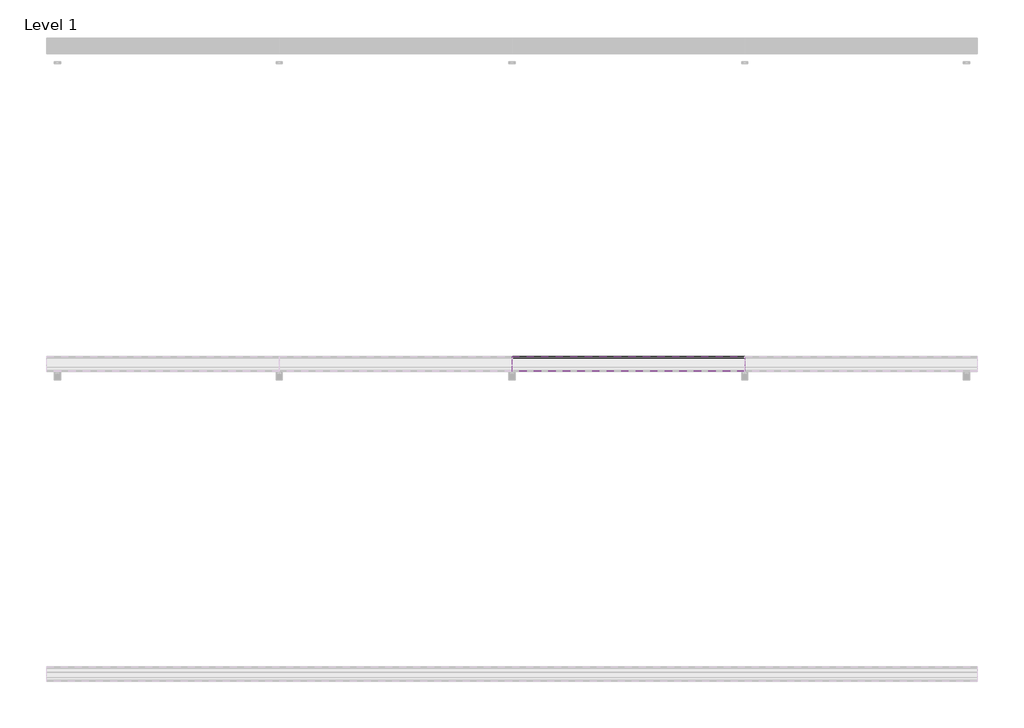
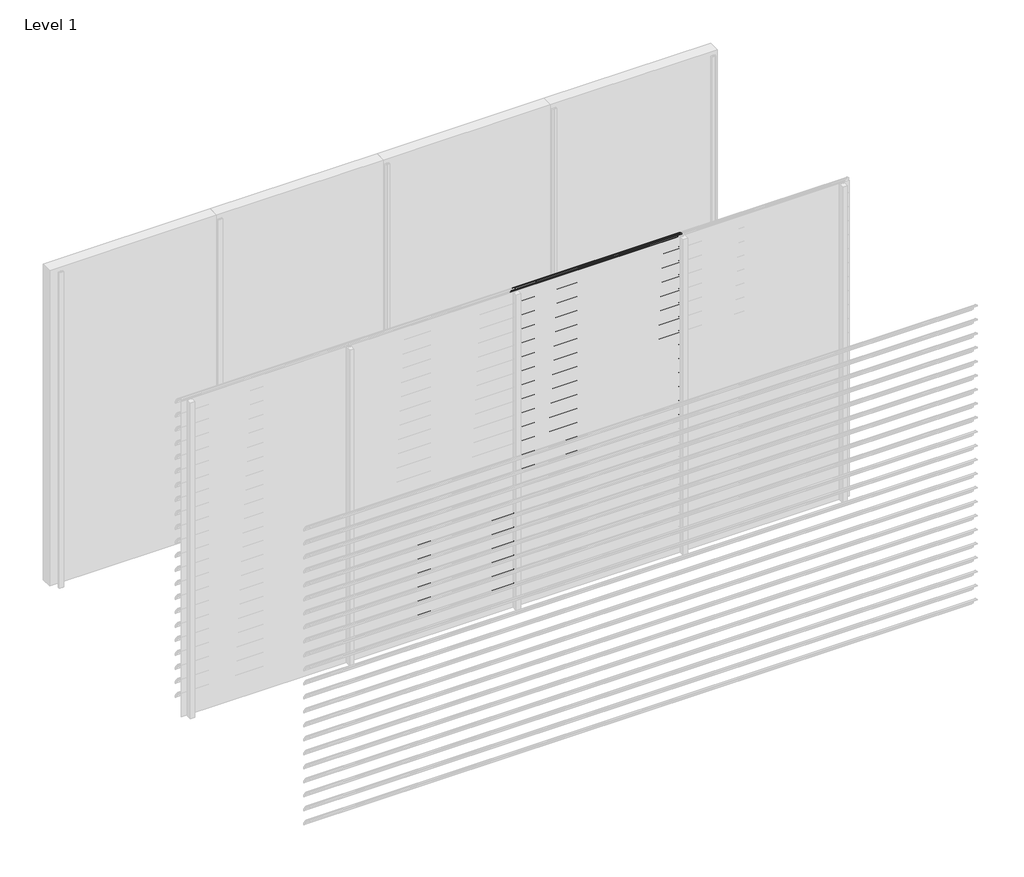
# One storey, part 28 of 57: 20 proxies.
"""IFC4 building model written with IfcOpenShell, lengths in millimetres."""

from ifc_helpers import new_model, si_unit, point, frame, frame_2d, origin, place, context, project, spatial, polyline, circle_curve, trimmed, segment, composite_curve, outline, extrude, element, save

model = new_model("IFC4")

# Units and contexts
model_context = context("Model", 3, world=origin())
ifc_project = project(units=[si_unit("LENGTHUNIT", "METRE", prefix="MILLI")], contexts=[model_context])

# Site, building, storey
site = spatial("IfcSite", under=ifc_project)
building = spatial("IfcBuilding", under=site)
storey = spatial("IfcBuildingStorey", under=building, Name="Level 1", Elevation=0.0)

# Proxies
placement = place(None, origin())
element("IfcBuildingElementProxy", 1, Name="Wall Sweeps", at=placement, inside=storey, context=model_context, shape_type="SweptSolid", body=[
    extrude(outline(composite_curve([segment(trimmed(circle_curve(frame_2d((-29993.7822526, 888.4913792)), 4.2177474), [point((-29989.6985606, 889.5462976))], [point((-29993.7822526, 892.7091266))], False, "CARTESIAN"), True, "CONTINUOUS"), segment(trimmed(circle_curve(frame_2d((-30018.7150834, 790.2536312)), 105.4456002), [point((-29993.7822526, 892.7091266))], [point((-29971.7914298, 884.6832099))], False, "CARTESIAN"), True, "CONTINUOUS"), segment(trimmed(circle_curve(frame_2d((-30061.7199745, 736.0352476)), 173.7335887), [point((-29971.7914298, 884.6832099))], [point((-29913.0720121, 825.9637922))], False, "CARTESIAN"), True, "CONTINUOUS"), segment(trimmed(circle_curve(frame_2d((-30004.9297178, 774.1860314)), 105.4456002), [point((-29913.0720121, 825.9637922))], [point((-29903.6249616, 803.4455765))], False, "CARTESIAN"), True, "CONTINUOUS"), segment(trimmed(circle_curve(frame_2d((-29907.809737, 802.3307305)), 4.3307305), [point((-29903.6249616, 803.4455765))], [point((-29909.0769196, 798.189538))], False, "CARTESIAN"), True, "CONTINUOUS"), segment(polyline([(-29909.0769196, 798.189538), (-29934.7401984, 822.9722783)]), True, "CONTINUOUS"), segment(trimmed(circle_curve(frame_2d((-29931.3879574, 825.2977626)), 4.079877), [point((-29934.7401984, 822.9722783))], [point((-29930.7310597, 829.3244091))], False, "CARTESIAN"), True, "CONTINUOUS"), segment(trimmed(circle_curve(frame_2d((-30014.6665585, 807.2544323)), 86.7885467), [point((-29930.7310597, 829.3244091))], [point((-29942.3028351, 855.1683485))], True, "CARTESIAN"), True, "CONTINUOUS"), segment(polyline([(-29942.3028351, 855.1683485), (-29940.7230099, 857.9046861)]), True, "CONTINUOUS"), segment(trimmed(circle_curve(frame_2d((-30061.7199745, 736.0352476)), 171.7335887), [point((-29940.7230099, 857.9046861))], [point((-29972.7555872, 882.9289618))], True, "CARTESIAN"), True, "CONTINUOUS"), segment(trimmed(circle_curve(frame_2d((-30018.7150834, 790.2536312)), 103.4456002), [point((-29972.7555872, 882.9289618))], [point((-29989.6985606, 889.5462976))], True, "CARTESIAN"), True, "CONTINUOUS")], self_intersect=False)), frame((1500.0, 0.0, 0.0), z_axis=(1.0, 0.0, 0.0), x_axis=(0.0, 1.0, 0.0)), (0.0, 0.0, 1.0), 1500.0),
])
element("IfcBuildingElementProxy", 2, Name="Wall Sweeps", at=placement, inside=storey, context=model_context, shape_type="SweptSolid", body=[
    extrude(outline(composite_curve([segment(trimmed(circle_curve(frame_2d((-29993.7822526, 755.4913792)), 4.2177474), [point((-29989.6985606, 756.5462976))], [point((-29993.7822526, 759.7091266))], False, "CARTESIAN"), True, "CONTINUOUS"), segment(trimmed(circle_curve(frame_2d((-30018.7150834, 657.2536312)), 105.4456002), [point((-29993.7822526, 759.7091266))], [point((-29971.7914298, 751.6832099))], False, "CARTESIAN"), True, "CONTINUOUS"), segment(trimmed(circle_curve(frame_2d((-30061.7199745, 603.0352476)), 173.7335887), [point((-29971.7914298, 751.6832099))], [point((-29913.0720121, 692.9637922))], False, "CARTESIAN"), True, "CONTINUOUS"), segment(trimmed(circle_curve(frame_2d((-30004.9297178, 641.1860314)), 105.4456002), [point((-29913.0720121, 692.9637922))], [point((-29903.6249616, 670.4455765))], False, "CARTESIAN"), True, "CONTINUOUS"), segment(trimmed(circle_curve(frame_2d((-29907.809737, 669.3307305)), 4.3307305), [point((-29903.6249616, 670.4455765))], [point((-29909.0769196, 665.189538))], False, "CARTESIAN"), True, "CONTINUOUS"), segment(polyline([(-29909.0769196, 665.189538), (-29934.7401984, 689.9722783)]), True, "CONTINUOUS"), segment(trimmed(circle_curve(frame_2d((-29931.3879574, 692.2977626)), 4.079877), [point((-29934.7401984, 689.9722783))], [point((-29930.7310597, 696.3244091))], False, "CARTESIAN"), True, "CONTINUOUS"), segment(trimmed(circle_curve(frame_2d((-30014.6665585, 674.2544323)), 86.7885467), [point((-29930.7310597, 696.3244091))], [point((-29942.3028351, 722.1683485))], True, "CARTESIAN"), True, "CONTINUOUS"), segment(polyline([(-29942.3028351, 722.1683485), (-29940.7230099, 724.9046861)]), True, "CONTINUOUS"), segment(trimmed(circle_curve(frame_2d((-30061.7199745, 603.0352476)), 171.7335887), [point((-29940.7230099, 724.9046861))], [point((-29972.7555872, 749.9289618))], True, "CARTESIAN"), True, "CONTINUOUS"), segment(trimmed(circle_curve(frame_2d((-30018.7150834, 657.2536312)), 103.4456002), [point((-29972.7555872, 749.9289618))], [point((-29989.6985606, 756.5462976))], True, "CARTESIAN"), True, "CONTINUOUS")], self_intersect=False)), frame((1500.0, 0.0, 0.0), z_axis=(1.0, 0.0, 0.0), x_axis=(0.0, 1.0, 0.0)), (0.0, 0.0, 1.0), 1500.0),
])
element("IfcBuildingElementProxy", 3, Name="Wall Sweeps", at=placement, inside=storey, context=model_context, shape_type="SweptSolid", body=[
    extrude(outline(composite_curve([segment(trimmed(circle_curve(frame_2d((-29993.7822526, 622.4913792)), 4.2177474), [point((-29989.6985606, 623.5462976))], [point((-29993.7822526, 626.7091266))], False, "CARTESIAN"), True, "CONTINUOUS"), segment(trimmed(circle_curve(frame_2d((-30018.7150834, 524.2536312)), 105.4456002), [point((-29993.7822526, 626.7091266))], [point((-29971.7914298, 618.6832099))], False, "CARTESIAN"), True, "CONTINUOUS"), segment(trimmed(circle_curve(frame_2d((-30061.7199745, 470.0352476)), 173.7335887), [point((-29971.7914298, 618.6832099))], [point((-29913.0720121, 559.9637922))], False, "CARTESIAN"), True, "CONTINUOUS"), segment(trimmed(circle_curve(frame_2d((-30004.9297178, 508.1860314)), 105.4456002), [point((-29913.0720121, 559.9637922))], [point((-29903.6249616, 537.4455765))], False, "CARTESIAN"), True, "CONTINUOUS"), segment(trimmed(circle_curve(frame_2d((-29907.809737, 536.3307305)), 4.3307305), [point((-29903.6249616, 537.4455765))], [point((-29909.0769196, 532.189538))], False, "CARTESIAN"), True, "CONTINUOUS"), segment(polyline([(-29909.0769196, 532.189538), (-29934.7401984, 556.9722783)]), True, "CONTINUOUS"), segment(trimmed(circle_curve(frame_2d((-29931.3879574, 559.2977626)), 4.079877), [point((-29934.7401984, 556.9722783))], [point((-29930.7310597, 563.3244091))], False, "CARTESIAN"), True, "CONTINUOUS"), segment(trimmed(circle_curve(frame_2d((-30014.6665585, 541.2544323)), 86.7885467), [point((-29930.7310597, 563.3244091))], [point((-29942.3028351, 589.1683485))], True, "CARTESIAN"), True, "CONTINUOUS"), segment(polyline([(-29942.3028351, 589.1683485), (-29940.7230099, 591.9046861)]), True, "CONTINUOUS"), segment(trimmed(circle_curve(frame_2d((-30061.7199745, 470.0352476)), 171.7335887), [point((-29940.7230099, 591.9046861))], [point((-29972.7555872, 616.9289618))], True, "CARTESIAN"), True, "CONTINUOUS"), segment(trimmed(circle_curve(frame_2d((-30018.7150834, 524.2536312)), 103.4456002), [point((-29972.7555872, 616.9289618))], [point((-29989.6985606, 623.5462976))], True, "CARTESIAN"), True, "CONTINUOUS")], self_intersect=False)), frame((1500.0, 0.0, 0.0), z_axis=(1.0, 0.0, 0.0), x_axis=(0.0, 1.0, 0.0)), (0.0, 0.0, 1.0), 1500.0),
])
element("IfcBuildingElementProxy", 4, Name="Wall Sweeps", at=placement, inside=storey, context=model_context, shape_type="SweptSolid", body=[
    extrude(outline(composite_curve([segment(trimmed(circle_curve(frame_2d((-29993.7822526, 489.4913792)), 4.2177474), [point((-29989.6985606, 490.5462976))], [point((-29993.7822526, 493.7091266))], False, "CARTESIAN"), True, "CONTINUOUS"), segment(trimmed(circle_curve(frame_2d((-30018.7150834, 391.2536312)), 105.4456002), [point((-29993.7822526, 493.7091266))], [point((-29971.7914298, 485.6832099))], False, "CARTESIAN"), True, "CONTINUOUS"), segment(trimmed(circle_curve(frame_2d((-30061.7199745, 337.0352476)), 173.7335887), [point((-29971.7914298, 485.6832099))], [point((-29913.0720121, 426.9637922))], False, "CARTESIAN"), True, "CONTINUOUS"), segment(trimmed(circle_curve(frame_2d((-30004.9297178, 375.1860314)), 105.4456002), [point((-29913.0720121, 426.9637922))], [point((-29903.6249616, 404.4455765))], False, "CARTESIAN"), True, "CONTINUOUS"), segment(trimmed(circle_curve(frame_2d((-29907.809737, 403.3307305)), 4.3307305), [point((-29903.6249616, 404.4455765))], [point((-29909.0769196, 399.189538))], False, "CARTESIAN"), True, "CONTINUOUS"), segment(polyline([(-29909.0769196, 399.189538), (-29934.7401984, 423.9722783)]), True, "CONTINUOUS"), segment(trimmed(circle_curve(frame_2d((-29931.3879574, 426.2977626)), 4.079877), [point((-29934.7401984, 423.9722783))], [point((-29930.7310597, 430.3244091))], False, "CARTESIAN"), True, "CONTINUOUS"), segment(trimmed(circle_curve(frame_2d((-30014.6665585, 408.2544323)), 86.7885467), [point((-29930.7310597, 430.3244091))], [point((-29942.3028351, 456.1683485))], True, "CARTESIAN"), True, "CONTINUOUS"), segment(polyline([(-29942.3028351, 456.1683485), (-29940.7230099, 458.9046861)]), True, "CONTINUOUS"), segment(trimmed(circle_curve(frame_2d((-30061.7199745, 337.0352476)), 171.7335887), [point((-29940.7230099, 458.9046861))], [point((-29972.7555872, 483.9289618))], True, "CARTESIAN"), True, "CONTINUOUS"), segment(trimmed(circle_curve(frame_2d((-30018.7150834, 391.2536312)), 103.4456002), [point((-29972.7555872, 483.9289618))], [point((-29989.6985606, 490.5462976))], True, "CARTESIAN"), True, "CONTINUOUS")], self_intersect=False)), frame((1500.0, 0.0, 0.0), z_axis=(1.0, 0.0, 0.0), x_axis=(0.0, 1.0, 0.0)), (0.0, 0.0, 1.0), 1500.0),
])
element("IfcBuildingElementProxy", 5, Name="Wall Sweeps", at=placement, inside=storey, context=model_context, shape_type="SweptSolid", body=[
    extrude(outline(composite_curve([segment(trimmed(circle_curve(frame_2d((-29993.7822526, 356.4913792)), 4.2177474), [point((-29989.6985606, 357.5462976))], [point((-29993.7822526, 360.7091266))], False, "CARTESIAN"), True, "CONTINUOUS"), segment(trimmed(circle_curve(frame_2d((-30018.7150834, 258.2536312)), 105.4456002), [point((-29993.7822526, 360.7091266))], [point((-29971.7914298, 352.6832099))], False, "CARTESIAN"), True, "CONTINUOUS"), segment(trimmed(circle_curve(frame_2d((-30061.7199745, 204.0352476)), 173.7335887), [point((-29971.7914298, 352.6832099))], [point((-29913.0720121, 293.9637922))], False, "CARTESIAN"), True, "CONTINUOUS"), segment(trimmed(circle_curve(frame_2d((-30004.9297178, 242.1860314)), 105.4456002), [point((-29913.0720121, 293.9637922))], [point((-29903.6249616, 271.4455765))], False, "CARTESIAN"), True, "CONTINUOUS"), segment(trimmed(circle_curve(frame_2d((-29907.809737, 270.3307305)), 4.3307305), [point((-29903.6249616, 271.4455765))], [point((-29909.0769196, 266.189538))], False, "CARTESIAN"), True, "CONTINUOUS"), segment(polyline([(-29909.0769196, 266.189538), (-29934.7401984, 290.9722783)]), True, "CONTINUOUS"), segment(trimmed(circle_curve(frame_2d((-29931.3879574, 293.2977626)), 4.079877), [point((-29934.7401984, 290.9722783))], [point((-29930.7310597, 297.3244091))], False, "CARTESIAN"), True, "CONTINUOUS"), segment(trimmed(circle_curve(frame_2d((-30014.6665585, 275.2544323)), 86.7885467), [point((-29930.7310597, 297.3244091))], [point((-29942.3028351, 323.1683485))], True, "CARTESIAN"), True, "CONTINUOUS"), segment(polyline([(-29942.3028351, 323.1683485), (-29940.7230099, 325.9046861)]), True, "CONTINUOUS"), segment(trimmed(circle_curve(frame_2d((-30061.7199745, 204.0352476)), 171.7335887), [point((-29940.7230099, 325.9046861))], [point((-29972.7555872, 350.9289618))], True, "CARTESIAN"), True, "CONTINUOUS"), segment(trimmed(circle_curve(frame_2d((-30018.7150834, 258.2536312)), 103.4456002), [point((-29972.7555872, 350.9289618))], [point((-29989.6985606, 357.5462976))], True, "CARTESIAN"), True, "CONTINUOUS")], self_intersect=False)), frame((1500.0, 0.0, 0.0), z_axis=(1.0, 0.0, 0.0), x_axis=(0.0, 1.0, 0.0)), (0.0, 0.0, 1.0), 1500.0),
])
element("IfcBuildingElementProxy", 6, Name="Wall Sweeps", at=placement, inside=storey, context=model_context, shape_type="SweptSolid", body=[
    extrude(outline(composite_curve([segment(trimmed(circle_curve(frame_2d((-29993.7822526, 223.4913792)), 4.2177474), [point((-29989.6985606, 224.5462976))], [point((-29993.7822526, 227.7091266))], False, "CARTESIAN"), True, "CONTINUOUS"), segment(trimmed(circle_curve(frame_2d((-30018.7150834, 125.2536312)), 105.4456002), [point((-29993.7822526, 227.7091266))], [point((-29971.7914298, 219.6832099))], False, "CARTESIAN"), True, "CONTINUOUS"), segment(trimmed(circle_curve(frame_2d((-30061.7199745, 71.0352476)), 173.7335887), [point((-29971.7914298, 219.6832099))], [point((-29913.0720121, 160.9637922))], False, "CARTESIAN"), True, "CONTINUOUS"), segment(trimmed(circle_curve(frame_2d((-30004.9297178, 109.1860314)), 105.4456002), [point((-29913.0720121, 160.9637922))], [point((-29903.6249616, 138.4455765))], False, "CARTESIAN"), True, "CONTINUOUS"), segment(trimmed(circle_curve(frame_2d((-29907.809737, 137.3307305)), 4.3307305), [point((-29903.6249616, 138.4455765))], [point((-29909.0769196, 133.189538))], False, "CARTESIAN"), True, "CONTINUOUS"), segment(polyline([(-29909.0769196, 133.189538), (-29934.7401984, 157.9722783)]), True, "CONTINUOUS"), segment(trimmed(circle_curve(frame_2d((-29931.3879574, 160.2977626)), 4.079877), [point((-29934.7401984, 157.9722783))], [point((-29930.7310597, 164.3244091))], False, "CARTESIAN"), True, "CONTINUOUS"), segment(trimmed(circle_curve(frame_2d((-30014.6665585, 142.2544323)), 86.7885467), [point((-29930.7310597, 164.3244091))], [point((-29942.3028351, 190.1683485))], True, "CARTESIAN"), True, "CONTINUOUS"), segment(polyline([(-29942.3028351, 190.1683485), (-29940.7230099, 192.9046861)]), True, "CONTINUOUS"), segment(trimmed(circle_curve(frame_2d((-30061.7199745, 71.0352476)), 171.7335887), [point((-29940.7230099, 192.9046861))], [point((-29972.7555872, 217.9289618))], True, "CARTESIAN"), True, "CONTINUOUS"), segment(trimmed(circle_curve(frame_2d((-30018.7150834, 125.2536312)), 103.4456002), [point((-29972.7555872, 217.9289618))], [point((-29989.6985606, 224.5462976))], True, "CARTESIAN"), True, "CONTINUOUS")], self_intersect=False)), frame((1500.0, 0.0, 0.0), z_axis=(1.0, 0.0, 0.0), x_axis=(0.0, 1.0, 0.0)), (0.0, 0.0, 1.0), 1500.0),
])
element("IfcBuildingElementProxy", 7, Name="Wall Sweeps", at=placement, inside=storey, context=model_context, shape_type="SweptSolid", body=[
    extrude(outline(composite_curve([segment(trimmed(circle_curve(frame_2d((-29993.7822526, 3016.4913792)), 4.2177474), [point((-29989.6985606, 3017.5462976))], [point((-29993.7822526, 3020.7091266))], False, "CARTESIAN"), True, "CONTINUOUS"), segment(trimmed(circle_curve(frame_2d((-30018.7150834, 2918.2536312)), 105.4456002), [point((-29993.7822526, 3020.7091266))], [point((-29971.7914298, 3012.6832099))], False, "CARTESIAN"), True, "CONTINUOUS"), segment(trimmed(circle_curve(frame_2d((-30061.7199745, 2864.0352476)), 173.7335887), [point((-29971.7914298, 3012.6832099))], [point((-29913.0720121, 2953.9637922))], False, "CARTESIAN"), True, "CONTINUOUS"), segment(trimmed(circle_curve(frame_2d((-30004.9297178, 2902.1860314)), 105.4456002), [point((-29913.0720121, 2953.9637922))], [point((-29903.6249616, 2931.4455765))], False, "CARTESIAN"), True, "CONTINUOUS"), segment(trimmed(circle_curve(frame_2d((-29907.809737, 2930.3307305)), 4.3307305), [point((-29903.6249616, 2931.4455765))], [point((-29909.0769196, 2926.189538))], False, "CARTESIAN"), True, "CONTINUOUS"), segment(polyline([(-29909.0769196, 2926.189538), (-29934.7401984, 2950.9722783)]), True, "CONTINUOUS"), segment(trimmed(circle_curve(frame_2d((-29931.3879574, 2953.2977626)), 4.079877), [point((-29934.7401984, 2950.9722783))], [point((-29930.7310597, 2957.3244091))], False, "CARTESIAN"), True, "CONTINUOUS"), segment(trimmed(circle_curve(frame_2d((-30014.6665585, 2935.2544323)), 86.7885467), [point((-29930.7310597, 2957.3244091))], [point((-29942.3028351, 2983.1683485))], True, "CARTESIAN"), True, "CONTINUOUS"), segment(polyline([(-29942.3028351, 2983.1683485), (-29940.7230099, 2985.9046861)]), True, "CONTINUOUS"), segment(trimmed(circle_curve(frame_2d((-30061.7199745, 2864.0352476)), 171.7335887), [point((-29940.7230099, 2985.9046861))], [point((-29972.7555872, 3010.9289618))], True, "CARTESIAN"), True, "CONTINUOUS"), segment(trimmed(circle_curve(frame_2d((-30018.7150834, 2918.2536312)), 103.4456002), [point((-29972.7555872, 3010.9289618))], [point((-29989.6985606, 3017.5462976))], True, "CARTESIAN"), True, "CONTINUOUS")], self_intersect=False)), frame((3000.0, 0.0, 0.0), z_axis=(1.0, 0.0, 0.0), x_axis=(0.0, 1.0, 0.0)), (0.0, 0.0, 1.0), 1500.0),
])
element("IfcBuildingElementProxy", 8, Name="Wall Sweeps", at=placement, inside=storey, context=model_context, shape_type="SweptSolid", body=[
    extrude(outline(composite_curve([segment(trimmed(circle_curve(frame_2d((-29993.7822526, 2883.4913792)), 4.2177474), [point((-29989.6985606, 2884.5462976))], [point((-29993.7822526, 2887.7091266))], False, "CARTESIAN"), True, "CONTINUOUS"), segment(trimmed(circle_curve(frame_2d((-30018.7150834, 2785.2536312)), 105.4456002), [point((-29993.7822526, 2887.7091266))], [point((-29971.7914298, 2879.6832099))], False, "CARTESIAN"), True, "CONTINUOUS"), segment(trimmed(circle_curve(frame_2d((-30061.7199745, 2731.0352476)), 173.7335887), [point((-29971.7914298, 2879.6832099))], [point((-29913.0720121, 2820.9637922))], False, "CARTESIAN"), True, "CONTINUOUS"), segment(trimmed(circle_curve(frame_2d((-30004.9297178, 2769.1860314)), 105.4456002), [point((-29913.0720121, 2820.9637922))], [point((-29903.6249616, 2798.4455765))], False, "CARTESIAN"), True, "CONTINUOUS"), segment(trimmed(circle_curve(frame_2d((-29907.809737, 2797.3307305)), 4.3307305), [point((-29903.6249616, 2798.4455765))], [point((-29909.0769196, 2793.189538))], False, "CARTESIAN"), True, "CONTINUOUS"), segment(polyline([(-29909.0769196, 2793.189538), (-29934.7401984, 2817.9722783)]), True, "CONTINUOUS"), segment(trimmed(circle_curve(frame_2d((-29931.3879574, 2820.2977626)), 4.079877), [point((-29934.7401984, 2817.9722783))], [point((-29930.7310597, 2824.3244091))], False, "CARTESIAN"), True, "CONTINUOUS"), segment(trimmed(circle_curve(frame_2d((-30014.6665585, 2802.2544323)), 86.7885467), [point((-29930.7310597, 2824.3244091))], [point((-29942.3028351, 2850.1683485))], True, "CARTESIAN"), True, "CONTINUOUS"), segment(polyline([(-29942.3028351, 2850.1683485), (-29940.7230099, 2852.9046861)]), True, "CONTINUOUS"), segment(trimmed(circle_curve(frame_2d((-30061.7199745, 2731.0352476)), 171.7335887), [point((-29940.7230099, 2852.9046861))], [point((-29972.7555872, 2877.9289618))], True, "CARTESIAN"), True, "CONTINUOUS"), segment(trimmed(circle_curve(frame_2d((-30018.7150834, 2785.2536312)), 103.4456002), [point((-29972.7555872, 2877.9289618))], [point((-29989.6985606, 2884.5462976))], True, "CARTESIAN"), True, "CONTINUOUS")], self_intersect=False)), frame((3000.0, 0.0, 0.0), z_axis=(1.0, 0.0, 0.0), x_axis=(0.0, 1.0, 0.0)), (0.0, 0.0, 1.0), 1500.0),
])
element("IfcBuildingElementProxy", 9, Name="Wall Sweeps", at=placement, inside=storey, context=model_context, shape_type="SweptSolid", body=[
    extrude(outline(composite_curve([segment(trimmed(circle_curve(frame_2d((-29993.7822526, 2750.4913792)), 4.2177474), [point((-29989.6985606, 2751.5462976))], [point((-29993.7822526, 2754.7091266))], False, "CARTESIAN"), True, "CONTINUOUS"), segment(trimmed(circle_curve(frame_2d((-30018.7150834, 2652.2536312)), 105.4456002), [point((-29993.7822526, 2754.7091266))], [point((-29971.7914298, 2746.6832099))], False, "CARTESIAN"), True, "CONTINUOUS"), segment(trimmed(circle_curve(frame_2d((-30061.7199745, 2598.0352476)), 173.7335887), [point((-29971.7914298, 2746.6832099))], [point((-29913.0720121, 2687.9637922))], False, "CARTESIAN"), True, "CONTINUOUS"), segment(trimmed(circle_curve(frame_2d((-30004.9297178, 2636.1860314)), 105.4456002), [point((-29913.0720121, 2687.9637922))], [point((-29903.6249616, 2665.4455765))], False, "CARTESIAN"), True, "CONTINUOUS"), segment(trimmed(circle_curve(frame_2d((-29907.809737, 2664.3307305)), 4.3307305), [point((-29903.6249616, 2665.4455765))], [point((-29909.0769196, 2660.189538))], False, "CARTESIAN"), True, "CONTINUOUS"), segment(polyline([(-29909.0769196, 2660.189538), (-29934.7401984, 2684.9722783)]), True, "CONTINUOUS"), segment(trimmed(circle_curve(frame_2d((-29931.3879574, 2687.2977626)), 4.079877), [point((-29934.7401984, 2684.9722783))], [point((-29930.7310597, 2691.3244091))], False, "CARTESIAN"), True, "CONTINUOUS"), segment(trimmed(circle_curve(frame_2d((-30014.6665585, 2669.2544323)), 86.7885467), [point((-29930.7310597, 2691.3244091))], [point((-29942.3028351, 2717.1683485))], True, "CARTESIAN"), True, "CONTINUOUS"), segment(polyline([(-29942.3028351, 2717.1683485), (-29940.7230099, 2719.9046861)]), True, "CONTINUOUS"), segment(trimmed(circle_curve(frame_2d((-30061.7199745, 2598.0352476)), 171.7335887), [point((-29940.7230099, 2719.9046861))], [point((-29972.7555872, 2744.9289618))], True, "CARTESIAN"), True, "CONTINUOUS"), segment(trimmed(circle_curve(frame_2d((-30018.7150834, 2652.2536312)), 103.4456002), [point((-29972.7555872, 2744.9289618))], [point((-29989.6985606, 2751.5462976))], True, "CARTESIAN"), True, "CONTINUOUS")], self_intersect=False)), frame((3000.0, 0.0, 0.0), z_axis=(1.0, 0.0, 0.0), x_axis=(0.0, 1.0, 0.0)), (0.0, 0.0, 1.0), 1500.0),
])
element("IfcBuildingElementProxy", 10, Name="Wall Sweeps", at=placement, inside=storey, context=model_context, shape_type="SweptSolid", body=[
    extrude(outline(composite_curve([segment(trimmed(circle_curve(frame_2d((-29993.7822526, 2617.4913792)), 4.2177474), [point((-29989.6985606, 2618.5462976))], [point((-29993.7822526, 2621.7091266))], False, "CARTESIAN"), True, "CONTINUOUS"), segment(trimmed(circle_curve(frame_2d((-30018.7150834, 2519.2536312)), 105.4456002), [point((-29993.7822526, 2621.7091266))], [point((-29971.7914298, 2613.6832099))], False, "CARTESIAN"), True, "CONTINUOUS"), segment(trimmed(circle_curve(frame_2d((-30061.7199745, 2465.0352476)), 173.7335887), [point((-29971.7914298, 2613.6832099))], [point((-29913.0720121, 2554.9637922))], False, "CARTESIAN"), True, "CONTINUOUS"), segment(trimmed(circle_curve(frame_2d((-30004.9297178, 2503.1860314)), 105.4456002), [point((-29913.0720121, 2554.9637922))], [point((-29903.6249616, 2532.4455765))], False, "CARTESIAN"), True, "CONTINUOUS"), segment(trimmed(circle_curve(frame_2d((-29907.809737, 2531.3307305)), 4.3307305), [point((-29903.6249616, 2532.4455765))], [point((-29909.0769196, 2527.189538))], False, "CARTESIAN"), True, "CONTINUOUS"), segment(polyline([(-29909.0769196, 2527.189538), (-29934.7401984, 2551.9722783)]), True, "CONTINUOUS"), segment(trimmed(circle_curve(frame_2d((-29931.3879574, 2554.2977626)), 4.079877), [point((-29934.7401984, 2551.9722783))], [point((-29930.7310597, 2558.3244091))], False, "CARTESIAN"), True, "CONTINUOUS"), segment(trimmed(circle_curve(frame_2d((-30014.6665585, 2536.2544323)), 86.7885467), [point((-29930.7310597, 2558.3244091))], [point((-29942.3028351, 2584.1683485))], True, "CARTESIAN"), True, "CONTINUOUS"), segment(polyline([(-29942.3028351, 2584.1683485), (-29940.7230099, 2586.9046861)]), True, "CONTINUOUS"), segment(trimmed(circle_curve(frame_2d((-30061.7199745, 2465.0352476)), 171.7335887), [point((-29940.7230099, 2586.9046861))], [point((-29972.7555872, 2611.9289618))], True, "CARTESIAN"), True, "CONTINUOUS"), segment(trimmed(circle_curve(frame_2d((-30018.7150834, 2519.2536312)), 103.4456002), [point((-29972.7555872, 2611.9289618))], [point((-29989.6985606, 2618.5462976))], True, "CARTESIAN"), True, "CONTINUOUS")], self_intersect=False)), frame((3000.0, 0.0, 0.0), z_axis=(1.0, 0.0, 0.0), x_axis=(0.0, 1.0, 0.0)), (0.0, 0.0, 1.0), 1500.0),
])
element("IfcBuildingElementProxy", 11, Name="Wall Sweeps", at=placement, inside=storey, context=model_context, shape_type="SweptSolid", body=[
    extrude(outline(composite_curve([segment(trimmed(circle_curve(frame_2d((-29993.7822526, 2484.4913792)), 4.2177474), [point((-29989.6985606, 2485.5462976))], [point((-29993.7822526, 2488.7091266))], False, "CARTESIAN"), True, "CONTINUOUS"), segment(trimmed(circle_curve(frame_2d((-30018.7150834, 2386.2536312)), 105.4456002), [point((-29993.7822526, 2488.7091266))], [point((-29971.7914298, 2480.6832099))], False, "CARTESIAN"), True, "CONTINUOUS"), segment(trimmed(circle_curve(frame_2d((-30061.7199745, 2332.0352476)), 173.7335887), [point((-29971.7914298, 2480.6832099))], [point((-29913.0720121, 2421.9637922))], False, "CARTESIAN"), True, "CONTINUOUS"), segment(trimmed(circle_curve(frame_2d((-30004.9297178, 2370.1860314)), 105.4456002), [point((-29913.0720121, 2421.9637922))], [point((-29903.6249616, 2399.4455765))], False, "CARTESIAN"), True, "CONTINUOUS"), segment(trimmed(circle_curve(frame_2d((-29907.809737, 2398.3307305)), 4.3307305), [point((-29903.6249616, 2399.4455765))], [point((-29909.0769196, 2394.189538))], False, "CARTESIAN"), True, "CONTINUOUS"), segment(polyline([(-29909.0769196, 2394.189538), (-29934.7401984, 2418.9722783)]), True, "CONTINUOUS"), segment(trimmed(circle_curve(frame_2d((-29931.3879574, 2421.2977626)), 4.079877), [point((-29934.7401984, 2418.9722783))], [point((-29930.7310597, 2425.3244091))], False, "CARTESIAN"), True, "CONTINUOUS"), segment(trimmed(circle_curve(frame_2d((-30014.6665585, 2403.2544323)), 86.7885467), [point((-29930.7310597, 2425.3244091))], [point((-29942.3028351, 2451.1683485))], True, "CARTESIAN"), True, "CONTINUOUS"), segment(polyline([(-29942.3028351, 2451.1683485), (-29940.7230099, 2453.9046861)]), True, "CONTINUOUS"), segment(trimmed(circle_curve(frame_2d((-30061.7199745, 2332.0352476)), 171.7335887), [point((-29940.7230099, 2453.9046861))], [point((-29972.7555872, 2478.9289618))], True, "CARTESIAN"), True, "CONTINUOUS"), segment(trimmed(circle_curve(frame_2d((-30018.7150834, 2386.2536312)), 103.4456002), [point((-29972.7555872, 2478.9289618))], [point((-29989.6985606, 2485.5462976))], True, "CARTESIAN"), True, "CONTINUOUS")], self_intersect=False)), frame((3000.0, 0.0, 0.0), z_axis=(1.0, 0.0, 0.0), x_axis=(0.0, 1.0, 0.0)), (0.0, 0.0, 1.0), 1500.0),
])
element("IfcBuildingElementProxy", 12, Name="Wall Sweeps", at=placement, inside=storey, context=model_context, shape_type="SweptSolid", body=[
    extrude(outline(composite_curve([segment(trimmed(circle_curve(frame_2d((-29993.7822526, 2351.4913792)), 4.2177474), [point((-29989.6985606, 2352.5462976))], [point((-29993.7822526, 2355.7091266))], False, "CARTESIAN"), True, "CONTINUOUS"), segment(trimmed(circle_curve(frame_2d((-30018.7150834, 2253.2536312)), 105.4456002), [point((-29993.7822526, 2355.7091266))], [point((-29971.7914298, 2347.6832099))], False, "CARTESIAN"), True, "CONTINUOUS"), segment(trimmed(circle_curve(frame_2d((-30061.7199745, 2199.0352476)), 173.7335887), [point((-29971.7914298, 2347.6832099))], [point((-29913.0720121, 2288.9637922))], False, "CARTESIAN"), True, "CONTINUOUS"), segment(trimmed(circle_curve(frame_2d((-30004.9297178, 2237.1860314)), 105.4456002), [point((-29913.0720121, 2288.9637922))], [point((-29903.6249616, 2266.4455765))], False, "CARTESIAN"), True, "CONTINUOUS"), segment(trimmed(circle_curve(frame_2d((-29907.809737, 2265.3307305)), 4.3307305), [point((-29903.6249616, 2266.4455765))], [point((-29909.0769196, 2261.189538))], False, "CARTESIAN"), True, "CONTINUOUS"), segment(polyline([(-29909.0769196, 2261.189538), (-29934.7401984, 2285.9722783)]), True, "CONTINUOUS"), segment(trimmed(circle_curve(frame_2d((-29931.3879574, 2288.2977626)), 4.079877), [point((-29934.7401984, 2285.9722783))], [point((-29930.7310597, 2292.3244091))], False, "CARTESIAN"), True, "CONTINUOUS"), segment(trimmed(circle_curve(frame_2d((-30014.6665585, 2270.2544323)), 86.7885467), [point((-29930.7310597, 2292.3244091))], [point((-29942.3028351, 2318.1683485))], True, "CARTESIAN"), True, "CONTINUOUS"), segment(polyline([(-29942.3028351, 2318.1683485), (-29940.7230099, 2320.9046861)]), True, "CONTINUOUS"), segment(trimmed(circle_curve(frame_2d((-30061.7199745, 2199.0352476)), 171.7335887), [point((-29940.7230099, 2320.9046861))], [point((-29972.7555872, 2345.9289618))], True, "CARTESIAN"), True, "CONTINUOUS"), segment(trimmed(circle_curve(frame_2d((-30018.7150834, 2253.2536312)), 103.4456002), [point((-29972.7555872, 2345.9289618))], [point((-29989.6985606, 2352.5462976))], True, "CARTESIAN"), True, "CONTINUOUS")], self_intersect=False)), frame((3000.0, 0.0, 0.0), z_axis=(1.0, 0.0, 0.0), x_axis=(0.0, 1.0, 0.0)), (0.0, 0.0, 1.0), 1500.0),
])
element("IfcBuildingElementProxy", 13, Name="Wall Sweeps", at=placement, inside=storey, context=model_context, shape_type="SweptSolid", body=[
    extrude(outline(composite_curve([segment(trimmed(circle_curve(frame_2d((-29993.7822526, 2218.4913792)), 4.2177474), [point((-29989.6985606, 2219.5462976))], [point((-29993.7822526, 2222.7091266))], False, "CARTESIAN"), True, "CONTINUOUS"), segment(trimmed(circle_curve(frame_2d((-30018.7150834, 2120.2536312)), 105.4456002), [point((-29993.7822526, 2222.7091266))], [point((-29971.7914298, 2214.6832099))], False, "CARTESIAN"), True, "CONTINUOUS"), segment(trimmed(circle_curve(frame_2d((-30061.7199745, 2066.0352476)), 173.7335887), [point((-29971.7914298, 2214.6832099))], [point((-29913.0720121, 2155.9637922))], False, "CARTESIAN"), True, "CONTINUOUS"), segment(trimmed(circle_curve(frame_2d((-30004.9297178, 2104.1860314)), 105.4456002), [point((-29913.0720121, 2155.9637922))], [point((-29903.6249616, 2133.4455765))], False, "CARTESIAN"), True, "CONTINUOUS"), segment(trimmed(circle_curve(frame_2d((-29907.809737, 2132.3307305)), 4.3307305), [point((-29903.6249616, 2133.4455765))], [point((-29909.0769196, 2128.189538))], False, "CARTESIAN"), True, "CONTINUOUS"), segment(polyline([(-29909.0769196, 2128.189538), (-29934.7401984, 2152.9722783)]), True, "CONTINUOUS"), segment(trimmed(circle_curve(frame_2d((-29931.3879574, 2155.2977626)), 4.079877), [point((-29934.7401984, 2152.9722783))], [point((-29930.7310597, 2159.3244091))], False, "CARTESIAN"), True, "CONTINUOUS"), segment(trimmed(circle_curve(frame_2d((-30014.6665585, 2137.2544323)), 86.7885467), [point((-29930.7310597, 2159.3244091))], [point((-29942.3028351, 2185.1683485))], True, "CARTESIAN"), True, "CONTINUOUS"), segment(polyline([(-29942.3028351, 2185.1683485), (-29940.7230099, 2187.9046861)]), True, "CONTINUOUS"), segment(trimmed(circle_curve(frame_2d((-30061.7199745, 2066.0352476)), 171.7335887), [point((-29940.7230099, 2187.9046861))], [point((-29972.7555872, 2212.9289618))], True, "CARTESIAN"), True, "CONTINUOUS"), segment(trimmed(circle_curve(frame_2d((-30018.7150834, 2120.2536312)), 103.4456002), [point((-29972.7555872, 2212.9289618))], [point((-29989.6985606, 2219.5462976))], True, "CARTESIAN"), True, "CONTINUOUS")], self_intersect=False)), frame((3000.0, 0.0, 0.0), z_axis=(1.0, 0.0, 0.0), x_axis=(0.0, 1.0, 0.0)), (0.0, 0.0, 1.0), 1500.0),
])
element("IfcBuildingElementProxy", 14, Name="Wall Sweeps", at=placement, inside=storey, context=model_context, shape_type="SweptSolid", body=[
    extrude(outline(composite_curve([segment(trimmed(circle_curve(frame_2d((-29993.7822526, 2085.4913792)), 4.2177474), [point((-29989.6985606, 2086.5462976))], [point((-29993.7822526, 2089.7091266))], False, "CARTESIAN"), True, "CONTINUOUS"), segment(trimmed(circle_curve(frame_2d((-30018.7150834, 1987.2536312)), 105.4456002), [point((-29993.7822526, 2089.7091266))], [point((-29971.7914298, 2081.6832099))], False, "CARTESIAN"), True, "CONTINUOUS"), segment(trimmed(circle_curve(frame_2d((-30061.7199745, 1933.0352476)), 173.7335887), [point((-29971.7914298, 2081.6832099))], [point((-29913.0720121, 2022.9637922))], False, "CARTESIAN"), True, "CONTINUOUS"), segment(trimmed(circle_curve(frame_2d((-30004.9297178, 1971.1860314)), 105.4456002), [point((-29913.0720121, 2022.9637922))], [point((-29903.6249616, 2000.4455765))], False, "CARTESIAN"), True, "CONTINUOUS"), segment(trimmed(circle_curve(frame_2d((-29907.809737, 1999.3307305)), 4.3307305), [point((-29903.6249616, 2000.4455765))], [point((-29909.0769196, 1995.189538))], False, "CARTESIAN"), True, "CONTINUOUS"), segment(polyline([(-29909.0769196, 1995.189538), (-29934.7401984, 2019.9722783)]), True, "CONTINUOUS"), segment(trimmed(circle_curve(frame_2d((-29931.3879574, 2022.2977626)), 4.079877), [point((-29934.7401984, 2019.9722783))], [point((-29930.7310597, 2026.3244091))], False, "CARTESIAN"), True, "CONTINUOUS"), segment(trimmed(circle_curve(frame_2d((-30014.6665585, 2004.2544323)), 86.7885467), [point((-29930.7310597, 2026.3244091))], [point((-29942.3028351, 2052.1683485))], True, "CARTESIAN"), True, "CONTINUOUS"), segment(polyline([(-29942.3028351, 2052.1683485), (-29940.7230099, 2054.9046861)]), True, "CONTINUOUS"), segment(trimmed(circle_curve(frame_2d((-30061.7199745, 1933.0352476)), 171.7335887), [point((-29940.7230099, 2054.9046861))], [point((-29972.7555872, 2079.9289618))], True, "CARTESIAN"), True, "CONTINUOUS"), segment(trimmed(circle_curve(frame_2d((-30018.7150834, 1987.2536312)), 103.4456002), [point((-29972.7555872, 2079.9289618))], [point((-29989.6985606, 2086.5462976))], True, "CARTESIAN"), True, "CONTINUOUS")], self_intersect=False)), frame((3000.0, 0.0, 0.0), z_axis=(1.0, 0.0, 0.0), x_axis=(0.0, 1.0, 0.0)), (0.0, 0.0, 1.0), 1500.0),
])
element("IfcBuildingElementProxy", 15, Name="Wall Sweeps", at=placement, inside=storey, context=model_context, shape_type="SweptSolid", body=[
    extrude(outline(composite_curve([segment(trimmed(circle_curve(frame_2d((-29993.7822526, 1952.4913792)), 4.2177474), [point((-29989.6985606, 1953.5462976))], [point((-29993.7822526, 1956.7091266))], False, "CARTESIAN"), True, "CONTINUOUS"), segment(trimmed(circle_curve(frame_2d((-30018.7150834, 1854.2536312)), 105.4456002), [point((-29993.7822526, 1956.7091266))], [point((-29971.7914298, 1948.6832099))], False, "CARTESIAN"), True, "CONTINUOUS"), segment(trimmed(circle_curve(frame_2d((-30061.7199745, 1800.0352476)), 173.7335887), [point((-29971.7914298, 1948.6832099))], [point((-29913.0720121, 1889.9637922))], False, "CARTESIAN"), True, "CONTINUOUS"), segment(trimmed(circle_curve(frame_2d((-30004.9297178, 1838.1860314)), 105.4456002), [point((-29913.0720121, 1889.9637922))], [point((-29903.6249616, 1867.4455765))], False, "CARTESIAN"), True, "CONTINUOUS"), segment(trimmed(circle_curve(frame_2d((-29907.809737, 1866.3307305)), 4.3307305), [point((-29903.6249616, 1867.4455765))], [point((-29909.0769196, 1862.189538))], False, "CARTESIAN"), True, "CONTINUOUS"), segment(polyline([(-29909.0769196, 1862.189538), (-29934.7401984, 1886.9722783)]), True, "CONTINUOUS"), segment(trimmed(circle_curve(frame_2d((-29931.3879574, 1889.2977626)), 4.079877), [point((-29934.7401984, 1886.9722783))], [point((-29930.7310597, 1893.3244091))], False, "CARTESIAN"), True, "CONTINUOUS"), segment(trimmed(circle_curve(frame_2d((-30014.6665585, 1871.2544323)), 86.7885467), [point((-29930.7310597, 1893.3244091))], [point((-29942.3028351, 1919.1683485))], True, "CARTESIAN"), True, "CONTINUOUS"), segment(polyline([(-29942.3028351, 1919.1683485), (-29940.7230099, 1921.9046861)]), True, "CONTINUOUS"), segment(trimmed(circle_curve(frame_2d((-30061.7199745, 1800.0352476)), 171.7335887), [point((-29940.7230099, 1921.9046861))], [point((-29972.7555872, 1946.9289618))], True, "CARTESIAN"), True, "CONTINUOUS"), segment(trimmed(circle_curve(frame_2d((-30018.7150834, 1854.2536312)), 103.4456002), [point((-29972.7555872, 1946.9289618))], [point((-29989.6985606, 1953.5462976))], True, "CARTESIAN"), True, "CONTINUOUS")], self_intersect=False)), frame((3000.0, 0.0, 0.0), z_axis=(1.0, 0.0, 0.0), x_axis=(0.0, 1.0, 0.0)), (0.0, 0.0, 1.0), 1500.0),
])
element("IfcBuildingElementProxy", 16, Name="Wall Sweeps", at=placement, inside=storey, context=model_context, shape_type="SweptSolid", body=[
    extrude(outline(composite_curve([segment(trimmed(circle_curve(frame_2d((-29993.7822526, 1819.4913792)), 4.2177474), [point((-29989.6985606, 1820.5462976))], [point((-29993.7822526, 1823.7091266))], False, "CARTESIAN"), True, "CONTINUOUS"), segment(trimmed(circle_curve(frame_2d((-30018.7150834, 1721.2536312)), 105.4456002), [point((-29993.7822526, 1823.7091266))], [point((-29971.7914298, 1815.6832099))], False, "CARTESIAN"), True, "CONTINUOUS"), segment(trimmed(circle_curve(frame_2d((-30061.7199745, 1667.0352476)), 173.7335887), [point((-29971.7914298, 1815.6832099))], [point((-29913.0720121, 1756.9637922))], False, "CARTESIAN"), True, "CONTINUOUS"), segment(trimmed(circle_curve(frame_2d((-30004.9297178, 1705.1860314)), 105.4456002), [point((-29913.0720121, 1756.9637922))], [point((-29903.6249616, 1734.4455765))], False, "CARTESIAN"), True, "CONTINUOUS"), segment(trimmed(circle_curve(frame_2d((-29907.809737, 1733.3307305)), 4.3307305), [point((-29903.6249616, 1734.4455765))], [point((-29909.0769196, 1729.189538))], False, "CARTESIAN"), True, "CONTINUOUS"), segment(polyline([(-29909.0769196, 1729.189538), (-29934.7401984, 1753.9722783)]), True, "CONTINUOUS"), segment(trimmed(circle_curve(frame_2d((-29931.3879574, 1756.2977626)), 4.079877), [point((-29934.7401984, 1753.9722783))], [point((-29930.7310597, 1760.3244091))], False, "CARTESIAN"), True, "CONTINUOUS"), segment(trimmed(circle_curve(frame_2d((-30014.6665585, 1738.2544323)), 86.7885467), [point((-29930.7310597, 1760.3244091))], [point((-29942.3028351, 1786.1683485))], True, "CARTESIAN"), True, "CONTINUOUS"), segment(polyline([(-29942.3028351, 1786.1683485), (-29940.7230099, 1788.9046861)]), True, "CONTINUOUS"), segment(trimmed(circle_curve(frame_2d((-30061.7199745, 1667.0352476)), 171.7335887), [point((-29940.7230099, 1788.9046861))], [point((-29972.7555872, 1813.9289618))], True, "CARTESIAN"), True, "CONTINUOUS"), segment(trimmed(circle_curve(frame_2d((-30018.7150834, 1721.2536312)), 103.4456002), [point((-29972.7555872, 1813.9289618))], [point((-29989.6985606, 1820.5462976))], True, "CARTESIAN"), True, "CONTINUOUS")], self_intersect=False)), frame((3000.0, 0.0, 0.0), z_axis=(1.0, 0.0, 0.0), x_axis=(0.0, 1.0, 0.0)), (0.0, 0.0, 1.0), 1500.0),
])
element("IfcBuildingElementProxy", 17, Name="Wall Sweeps", at=placement, inside=storey, context=model_context, shape_type="SweptSolid", body=[
    extrude(outline(composite_curve([segment(trimmed(circle_curve(frame_2d((-29993.7822526, 1686.4913792)), 4.2177474), [point((-29989.6985606, 1687.5462976))], [point((-29993.7822526, 1690.7091266))], False, "CARTESIAN"), True, "CONTINUOUS"), segment(trimmed(circle_curve(frame_2d((-30018.7150834, 1588.2536312)), 105.4456002), [point((-29993.7822526, 1690.7091266))], [point((-29971.7914298, 1682.6832099))], False, "CARTESIAN"), True, "CONTINUOUS"), segment(trimmed(circle_curve(frame_2d((-30061.7199745, 1534.0352476)), 173.7335887), [point((-29971.7914298, 1682.6832099))], [point((-29913.0720121, 1623.9637922))], False, "CARTESIAN"), True, "CONTINUOUS"), segment(trimmed(circle_curve(frame_2d((-30004.9297178, 1572.1860314)), 105.4456002), [point((-29913.0720121, 1623.9637922))], [point((-29903.6249616, 1601.4455765))], False, "CARTESIAN"), True, "CONTINUOUS"), segment(trimmed(circle_curve(frame_2d((-29907.809737, 1600.3307305)), 4.3307305), [point((-29903.6249616, 1601.4455765))], [point((-29909.0769196, 1596.189538))], False, "CARTESIAN"), True, "CONTINUOUS"), segment(polyline([(-29909.0769196, 1596.189538), (-29934.7401984, 1620.9722783)]), True, "CONTINUOUS"), segment(trimmed(circle_curve(frame_2d((-29931.3879574, 1623.2977626)), 4.079877), [point((-29934.7401984, 1620.9722783))], [point((-29930.7310597, 1627.3244091))], False, "CARTESIAN"), True, "CONTINUOUS"), segment(trimmed(circle_curve(frame_2d((-30014.6665585, 1605.2544323)), 86.7885467), [point((-29930.7310597, 1627.3244091))], [point((-29942.3028351, 1653.1683485))], True, "CARTESIAN"), True, "CONTINUOUS"), segment(polyline([(-29942.3028351, 1653.1683485), (-29940.7230099, 1655.9046861)]), True, "CONTINUOUS"), segment(trimmed(circle_curve(frame_2d((-30061.7199745, 1534.0352476)), 171.7335887), [point((-29940.7230099, 1655.9046861))], [point((-29972.7555872, 1680.9289618))], True, "CARTESIAN"), True, "CONTINUOUS"), segment(trimmed(circle_curve(frame_2d((-30018.7150834, 1588.2536312)), 103.4456002), [point((-29972.7555872, 1680.9289618))], [point((-29989.6985606, 1687.5462976))], True, "CARTESIAN"), True, "CONTINUOUS")], self_intersect=False)), frame((3000.0, 0.0, 0.0), z_axis=(1.0, 0.0, 0.0), x_axis=(0.0, 1.0, 0.0)), (0.0, 0.0, 1.0), 1500.0),
])
element("IfcBuildingElementProxy", 18, Name="Wall Sweeps", at=placement, inside=storey, context=model_context, shape_type="SweptSolid", body=[
    extrude(outline(composite_curve([segment(trimmed(circle_curve(frame_2d((-29993.7822526, 1553.4913792)), 4.2177474), [point((-29989.6985606, 1554.5462976))], [point((-29993.7822526, 1557.7091266))], False, "CARTESIAN"), True, "CONTINUOUS"), segment(trimmed(circle_curve(frame_2d((-30018.7150834, 1455.2536312)), 105.4456002), [point((-29993.7822526, 1557.7091266))], [point((-29971.7914298, 1549.6832099))], False, "CARTESIAN"), True, "CONTINUOUS"), segment(trimmed(circle_curve(frame_2d((-30061.7199745, 1401.0352476)), 173.7335887), [point((-29971.7914298, 1549.6832099))], [point((-29913.0720121, 1490.9637922))], False, "CARTESIAN"), True, "CONTINUOUS"), segment(trimmed(circle_curve(frame_2d((-30004.9297178, 1439.1860314)), 105.4456002), [point((-29913.0720121, 1490.9637922))], [point((-29903.6249616, 1468.4455765))], False, "CARTESIAN"), True, "CONTINUOUS"), segment(trimmed(circle_curve(frame_2d((-29907.809737, 1467.3307305)), 4.3307305), [point((-29903.6249616, 1468.4455765))], [point((-29909.0769196, 1463.189538))], False, "CARTESIAN"), True, "CONTINUOUS"), segment(polyline([(-29909.0769196, 1463.189538), (-29934.7401984, 1487.9722783)]), True, "CONTINUOUS"), segment(trimmed(circle_curve(frame_2d((-29931.3879574, 1490.2977626)), 4.079877), [point((-29934.7401984, 1487.9722783))], [point((-29930.7310597, 1494.3244091))], False, "CARTESIAN"), True, "CONTINUOUS"), segment(trimmed(circle_curve(frame_2d((-30014.6665585, 1472.2544323)), 86.7885467), [point((-29930.7310597, 1494.3244091))], [point((-29942.3028351, 1520.1683485))], True, "CARTESIAN"), True, "CONTINUOUS"), segment(polyline([(-29942.3028351, 1520.1683485), (-29940.7230099, 1522.9046861)]), True, "CONTINUOUS"), segment(trimmed(circle_curve(frame_2d((-30061.7199745, 1401.0352476)), 171.7335887), [point((-29940.7230099, 1522.9046861))], [point((-29972.7555872, 1547.9289618))], True, "CARTESIAN"), True, "CONTINUOUS"), segment(trimmed(circle_curve(frame_2d((-30018.7150834, 1455.2536312)), 103.4456002), [point((-29972.7555872, 1547.9289618))], [point((-29989.6985606, 1554.5462976))], True, "CARTESIAN"), True, "CONTINUOUS")], self_intersect=False)), frame((3000.0, 0.0, 0.0), z_axis=(1.0, 0.0, 0.0), x_axis=(0.0, 1.0, 0.0)), (0.0, 0.0, 1.0), 1500.0),
])
element("IfcBuildingElementProxy", 19, Name="Wall Sweeps", at=placement, inside=storey, context=model_context, shape_type="SweptSolid", body=[
    extrude(outline(composite_curve([segment(trimmed(circle_curve(frame_2d((-29993.7822526, 1420.4913792)), 4.2177474), [point((-29989.6985606, 1421.5462976))], [point((-29993.7822526, 1424.7091266))], False, "CARTESIAN"), True, "CONTINUOUS"), segment(trimmed(circle_curve(frame_2d((-30018.7150834, 1322.2536312)), 105.4456002), [point((-29993.7822526, 1424.7091266))], [point((-29971.7914298, 1416.6832099))], False, "CARTESIAN"), True, "CONTINUOUS"), segment(trimmed(circle_curve(frame_2d((-30061.7199745, 1268.0352476)), 173.7335887), [point((-29971.7914298, 1416.6832099))], [point((-29913.0720121, 1357.9637922))], False, "CARTESIAN"), True, "CONTINUOUS"), segment(trimmed(circle_curve(frame_2d((-30004.9297178, 1306.1860314)), 105.4456002), [point((-29913.0720121, 1357.9637922))], [point((-29903.6249616, 1335.4455765))], False, "CARTESIAN"), True, "CONTINUOUS"), segment(trimmed(circle_curve(frame_2d((-29907.809737, 1334.3307305)), 4.3307305), [point((-29903.6249616, 1335.4455765))], [point((-29909.0769196, 1330.189538))], False, "CARTESIAN"), True, "CONTINUOUS"), segment(polyline([(-29909.0769196, 1330.189538), (-29934.7401984, 1354.9722783)]), True, "CONTINUOUS"), segment(trimmed(circle_curve(frame_2d((-29931.3879574, 1357.2977626)), 4.079877), [point((-29934.7401984, 1354.9722783))], [point((-29930.7310597, 1361.3244091))], False, "CARTESIAN"), True, "CONTINUOUS"), segment(trimmed(circle_curve(frame_2d((-30014.6665585, 1339.2544323)), 86.7885467), [point((-29930.7310597, 1361.3244091))], [point((-29942.3028351, 1387.1683485))], True, "CARTESIAN"), True, "CONTINUOUS"), segment(polyline([(-29942.3028351, 1387.1683485), (-29940.7230099, 1389.9046861)]), True, "CONTINUOUS"), segment(trimmed(circle_curve(frame_2d((-30061.7199745, 1268.0352476)), 171.7335887), [point((-29940.7230099, 1389.9046861))], [point((-29972.7555872, 1414.9289618))], True, "CARTESIAN"), True, "CONTINUOUS"), segment(trimmed(circle_curve(frame_2d((-30018.7150834, 1322.2536312)), 103.4456002), [point((-29972.7555872, 1414.9289618))], [point((-29989.6985606, 1421.5462976))], True, "CARTESIAN"), True, "CONTINUOUS")], self_intersect=False)), frame((3000.0, 0.0, 0.0), z_axis=(1.0, 0.0, 0.0), x_axis=(0.0, 1.0, 0.0)), (0.0, 0.0, 1.0), 1500.0),
])
element("IfcBuildingElementProxy", 20, Name="Wall Sweeps", at=placement, inside=storey, context=model_context, shape_type="SweptSolid", body=[
    extrude(outline(composite_curve([segment(trimmed(circle_curve(frame_2d((-29993.7822526, 1287.4913792)), 4.2177474), [point((-29989.6985606, 1288.5462976))], [point((-29993.7822526, 1291.7091266))], False, "CARTESIAN"), True, "CONTINUOUS"), segment(trimmed(circle_curve(frame_2d((-30018.7150834, 1189.2536312)), 105.4456002), [point((-29993.7822526, 1291.7091266))], [point((-29971.7914298, 1283.6832099))], False, "CARTESIAN"), True, "CONTINUOUS"), segment(trimmed(circle_curve(frame_2d((-30061.7199745, 1135.0352476)), 173.7335887), [point((-29971.7914298, 1283.6832099))], [point((-29913.0720121, 1224.9637922))], False, "CARTESIAN"), True, "CONTINUOUS"), segment(trimmed(circle_curve(frame_2d((-30004.9297178, 1173.1860314)), 105.4456002), [point((-29913.0720121, 1224.9637922))], [point((-29903.6249616, 1202.4455765))], False, "CARTESIAN"), True, "CONTINUOUS"), segment(trimmed(circle_curve(frame_2d((-29907.809737, 1201.3307305)), 4.3307305), [point((-29903.6249616, 1202.4455765))], [point((-29909.0769196, 1197.189538))], False, "CARTESIAN"), True, "CONTINUOUS"), segment(polyline([(-29909.0769196, 1197.189538), (-29934.7401984, 1221.9722783)]), True, "CONTINUOUS"), segment(trimmed(circle_curve(frame_2d((-29931.3879574, 1224.2977626)), 4.079877), [point((-29934.7401984, 1221.9722783))], [point((-29930.7310597, 1228.3244091))], False, "CARTESIAN"), True, "CONTINUOUS"), segment(trimmed(circle_curve(frame_2d((-30014.6665585, 1206.2544323)), 86.7885467), [point((-29930.7310597, 1228.3244091))], [point((-29942.3028351, 1254.1683485))], True, "CARTESIAN"), True, "CONTINUOUS"), segment(polyline([(-29942.3028351, 1254.1683485), (-29940.7230099, 1256.9046861)]), True, "CONTINUOUS"), segment(trimmed(circle_curve(frame_2d((-30061.7199745, 1135.0352476)), 171.7335887), [point((-29940.7230099, 1256.9046861))], [point((-29972.7555872, 1281.9289618))], True, "CARTESIAN"), True, "CONTINUOUS"), segment(trimmed(circle_curve(frame_2d((-30018.7150834, 1189.2536312)), 103.4456002), [point((-29972.7555872, 1281.9289618))], [point((-29989.6985606, 1288.5462976))], True, "CARTESIAN"), True, "CONTINUOUS")], self_intersect=False)), frame((3000.0, 0.0, 0.0), z_axis=(1.0, 0.0, 0.0), x_axis=(0.0, 1.0, 0.0)), (0.0, 0.0, 1.0), 1500.0),
])

save(model, "model.ifc")
